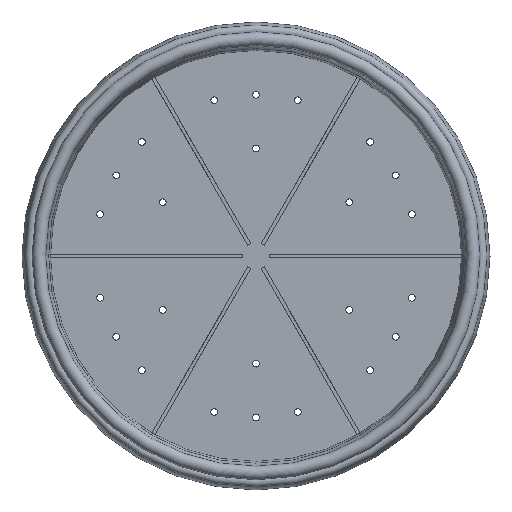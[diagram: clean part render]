
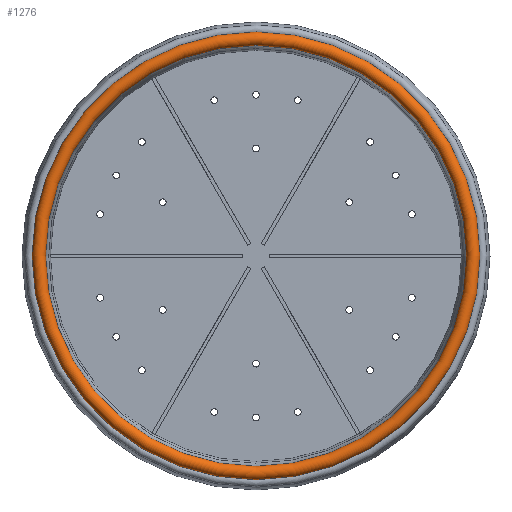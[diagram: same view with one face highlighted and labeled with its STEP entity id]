
A CAD part, top view. The second image highlights one B-rep face of the part: STEP entity #1276.
In plain terms, the highlighted toroidal (fillet/blend) face has major radius 161.5 mm and minor radius 5 mm.
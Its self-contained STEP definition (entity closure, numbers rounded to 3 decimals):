
#18=TOROIDAL_SURFACE('',#1441,161.5,5.);
#154=FACE_OUTER_BOUND('',#245,.T.);
#245=EDGE_LOOP('',(#1097,#1098,#1099,#1100));
#522=CIRCLE('',#1440,165.33);
#523=CIRCLE('',#1442,156.5);
#524=CIRCLE('',#1443,5.);
#643=VERTEX_POINT('',#2201);
#644=VERTEX_POINT('',#2205);
#810=EDGE_CURVE('',#643,#643,#522,.T.);
#812=EDGE_CURVE('',#644,#644,#523,.T.);
#813=EDGE_CURVE('',#644,#643,#524,.T.);
#1097=ORIENTED_EDGE('',*,*,#812,.F.);
#1098=ORIENTED_EDGE('',*,*,#813,.T.);
#1099=ORIENTED_EDGE('',*,*,#810,.T.);
#1100=ORIENTED_EDGE('',*,*,#813,.F.);
#1276=ADVANCED_FACE('',(#154),#18,.T.);
#1440=AXIS2_PLACEMENT_3D('',#2202,#1821,#1822);
#1441=AXIS2_PLACEMENT_3D('',#2204,#1824,#1825);
#1442=AXIS2_PLACEMENT_3D('',#2206,#1826,#1827);
#1443=AXIS2_PLACEMENT_3D('',#2207,#1828,#1829);
#1821=DIRECTION('center_axis',(0.,0.,1.));
#1822=DIRECTION('ref_axis',(1.,0.,0.));
#1824=DIRECTION('center_axis',(0.,0.,1.));
#1825=DIRECTION('ref_axis',(1.,0.,0.));
#1826=DIRECTION('center_axis',(0.,0.,1.));
#1827=DIRECTION('ref_axis',(1.,0.,0.));
#1828=DIRECTION('center_axis',(0.,-1.,0.));
#1829=DIRECTION('ref_axis',(-1.,0.,0.));
#2201=CARTESIAN_POINT('',(-165.33,0.,91.786));
#2202=CARTESIAN_POINT('Origin',(0.,0.,91.786));
#2204=CARTESIAN_POINT('Origin',(0.,0.,95.));
#2205=CARTESIAN_POINT('',(-156.5,0.,95.));
#2206=CARTESIAN_POINT('Origin',(0.,0.,95.));
#2207=CARTESIAN_POINT('Origin',(-161.5,0.,
95.));
